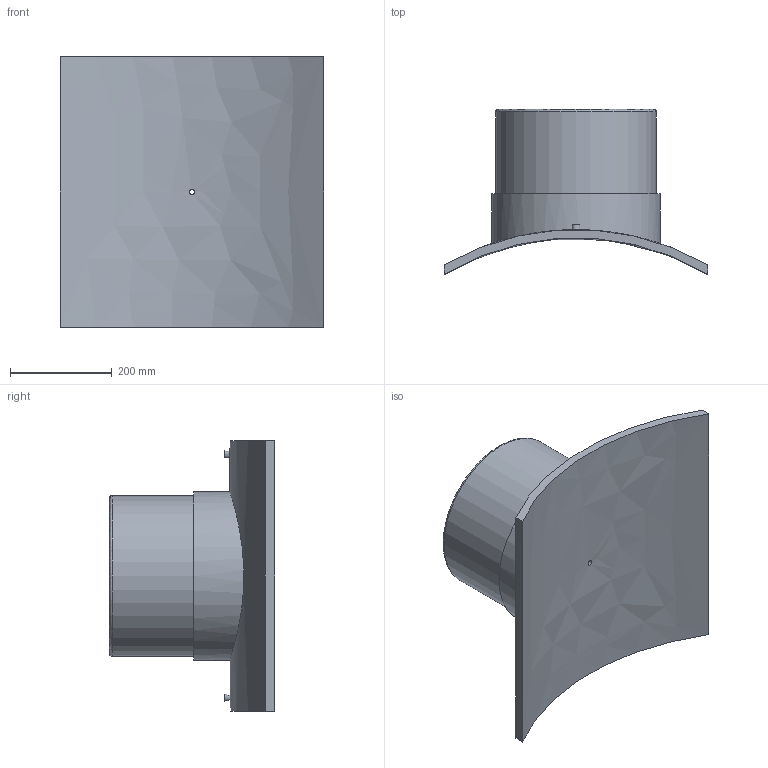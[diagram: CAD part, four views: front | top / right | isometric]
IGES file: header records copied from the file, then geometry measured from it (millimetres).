
Global section: file name: 4958031000315T.ipt; native system: Autodesk Inventor 2019; preprocessor: unknown; author: KIM; date: 20210225.094957; units: millimetre
Bounding box: 516 x 323.71 x 530 mm (x, y, z)
Volume: 12163380.7 mm3; surface area: 1062378.6 mm2
Topology: 2 solids, 2 shells, 29 faces, 54 edges, 38 vertices
Faces by surface type: plane 13, revolution 7, cylinder 7, cone 2
Full cylindrical faces by diameter (mm): 4 x2, 16 x1, 315 x1, 330.75 x1
